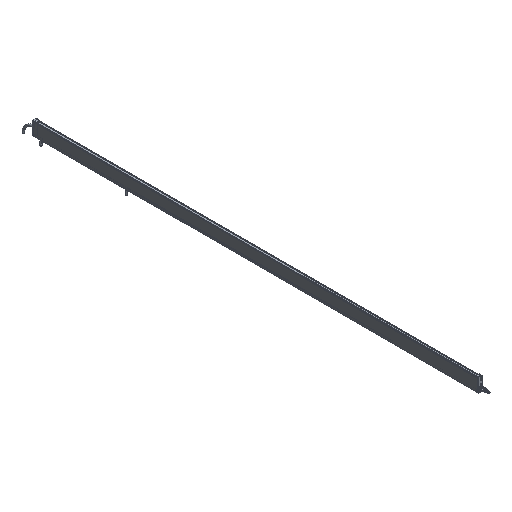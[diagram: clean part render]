
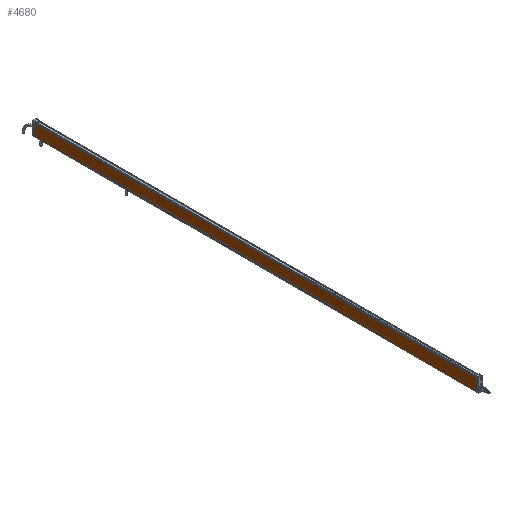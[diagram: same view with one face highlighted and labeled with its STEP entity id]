
A CAD part, isometric view. The second image highlights one B-rep face of the part: STEP entity #4680.
In plain terms, the highlighted planar face has unit normal (-1, 0, 0).
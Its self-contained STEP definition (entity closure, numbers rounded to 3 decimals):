
#127 = CARTESIAN_POINT ( 'NONE',  ( -9., 0., 0.5 ) ) ;
#1445 = PLANE ( 'NONE',  #7774 ) ;
#1808 = CARTESIAN_POINT ( 'NONE',  ( -9., 0., 28.5 ) ) ;
#2185 = ORIENTED_EDGE ( 'NONE', *, *, #17330, .T. ) ;
#2650 = VECTOR ( 'NONE', #15337, 1000. ) ;
#3043 = EDGE_CURVE ( 'NONE', #11369, #14068, #4173, .T. ) ;
#4173 = LINE ( 'NONE', #10126, #13830 ) ;
#4225 = DIRECTION ( 'NONE',  ( 0., -1., 0. ) ) ;
#4275 = CARTESIAN_POINT ( 'NONE',  ( -9., 1035., 0.5 ) ) ;
#4680 = ADVANCED_FACE ( 'NONE', ( #15279 ), #1445, .T. ) ;
#6189 = VERTEX_POINT ( 'NONE', #4275 ) ;
#6271 = CARTESIAN_POINT ( 'NONE',  ( -9., 1035., 28.5 ) ) ;
#7196 = VECTOR ( 'NONE', #17805, 1000. ) ;
#7774 = AXIS2_PLACEMENT_3D ( 'NONE', #19266, #16115, #19394 ) ;
#9374 = DIRECTION ( 'NONE',  ( 0., 0., -1. ) ) ;
#9903 = CARTESIAN_POINT ( 'NONE',  ( -9., 0., 28.5 ) ) ;
#10126 = CARTESIAN_POINT ( 'NONE',  ( -9., 1035., 28.5 ) ) ;
#10700 = LINE ( 'NONE', #6271, #20627 ) ;
#11369 = VERTEX_POINT ( 'NONE', #15239 ) ;
#11612 = ORIENTED_EDGE ( 'NONE', *, *, #17558, .F. ) ;
#12967 = VERTEX_POINT ( 'NONE', #127 ) ;
#13788 = CARTESIAN_POINT ( 'NONE',  ( -9., 1035., 0.5 ) ) ;
#13830 = VECTOR ( 'NONE', #4225, 1000. ) ;
#14036 = EDGE_CURVE ( 'NONE', #11369, #6189, #10700, .T. ) ;
#14068 = VERTEX_POINT ( 'NONE', #1808 ) ;
#15239 = CARTESIAN_POINT ( 'NONE',  ( -9., 1035., 28.5 ) ) ;
#15279 = FACE_OUTER_BOUND ( 'NONE', #15653, .T. ) ;
#15337 = DIRECTION ( 'NONE',  ( 0., -1., 0. ) ) ;
#15428 = ORIENTED_EDGE ( 'NONE', *, *, #14036, .T. ) ;
#15653 = EDGE_LOOP ( 'NONE', ( #11612, #16671, #15428, #2185 ) ) ;
#15914 = LINE ( 'NONE', #9903, #7196 ) ;
#16115 = DIRECTION ( 'NONE',  ( -1., 0., 0. ) ) ;
#16671 = ORIENTED_EDGE ( 'NONE', *, *, #3043, .F. ) ;
#17330 = EDGE_CURVE ( 'NONE', #6189, #12967, #19514, .T. ) ;
#17558 = EDGE_CURVE ( 'NONE', #14068, #12967, #15914, .T. ) ;
#17805 = DIRECTION ( 'NONE',  ( 0., 0., -1. ) ) ;
#19266 = CARTESIAN_POINT ( 'NONE',  ( -9., 1035., 28.5 ) ) ;
#19394 = DIRECTION ( 'NONE',  ( 0., -1., 0. ) ) ;
#19514 = LINE ( 'NONE', #13788, #2650 ) ;
#20627 = VECTOR ( 'NONE', #9374, 1000. ) ;
